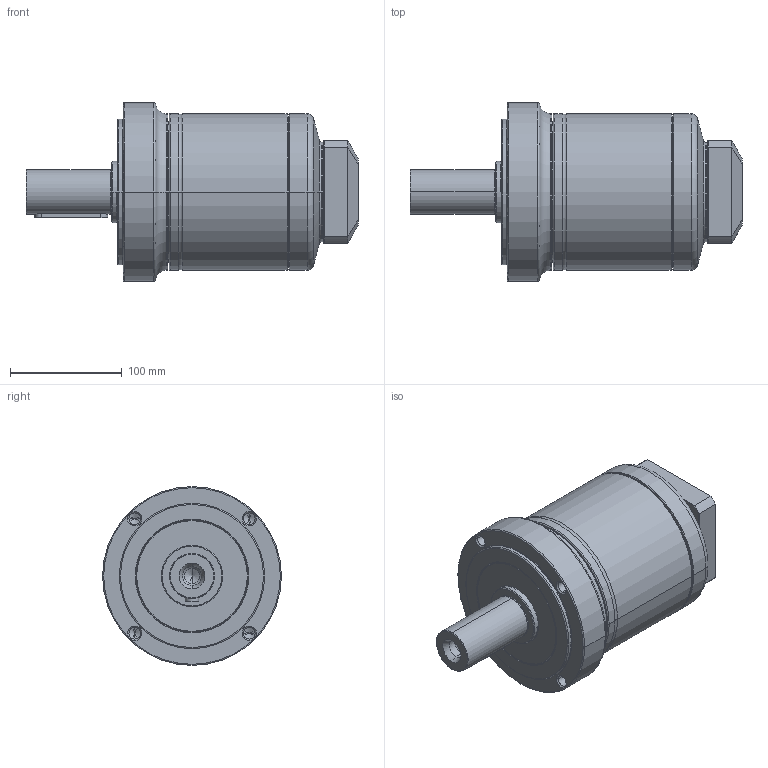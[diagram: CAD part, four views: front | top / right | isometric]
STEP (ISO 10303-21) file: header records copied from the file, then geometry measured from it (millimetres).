
FILE_DESCRIPTION((''),'2;1');
FILE_NAME('PG2-160_2ST_19-P0411400101_ASM','2016-04-13T',('d01943'),(''),'PRO/ENGINEER BY PARAMETRIC TECHNOLOGY CORPORATION, 2008410','PRO/ENGINEER BY PARAMETRIC TECHNOLOGY CORPORATION, 2008410','');
FILE_SCHEMA(('CONFIG_CONTROL_DESIGN'));
Length unit declared in the file: millimetre
Products named in the file (9): P1325510001; P0251500001; P1324500001; P0350501103; P0941500001; P0503400008; P0411400101; P1702500001; PG2-160_2ST_19-P0411400101_ASM
Assembly tree (8 placements, depth 2):
  PG2-160_2ST_19-P0411400101_ASM
    P1325510001
    P0251500001
    P1324500001
    P0350501103
    P0941500001
    P0503400008
    P0411400101
    P1702500001
Bounding box: 297 x 160 x 160 mm (x, y, z)
Volume: 2263998.6 mm3; surface area: 328008.3 mm2
Topology: 8 solids, 9 shells, 489 faces, 1074 edges, 615 vertices
Faces by surface type: cone 146, cylinder 146, torus 102, plane 79, bspline 16
Entity records: 18088 total; most frequent: CARTESIAN_POINT 7108, DIRECTION 2508, ORIENTED_EDGE 2080, AXIS2_PLACEMENT_3D 1076, EDGE_CURVE 1040, VERTEX_POINT 615, CIRCLE 586, EDGE_LOOP 553
